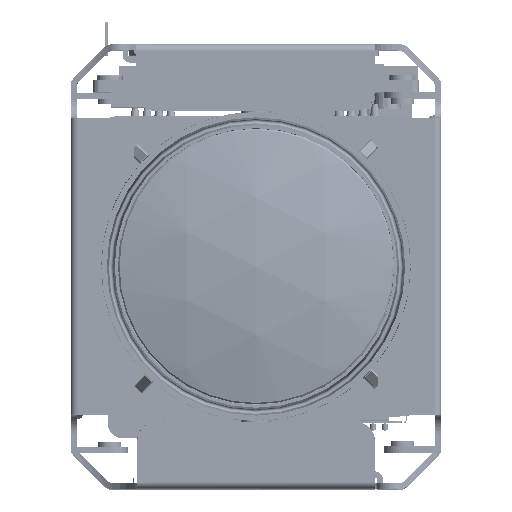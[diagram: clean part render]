
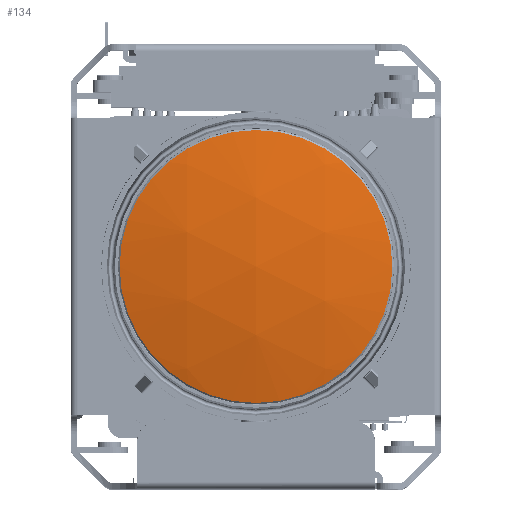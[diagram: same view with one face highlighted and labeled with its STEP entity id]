
A CAD part, top view. The second image highlights one B-rep face of the part: STEP entity #134.
In plain terms, the highlighted spherical face has radius 77.681 mm.
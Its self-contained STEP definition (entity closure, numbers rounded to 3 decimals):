
#47=CARTESIAN_POINT('',(-83.286,0.,0.));
#48=DIRECTION('',(-1.,0.,0.));
#49=DIRECTION('',(0.,-1.,0.));
#50=AXIS2_PLACEMENT_3D('',#47,#48,#49);
#52=CARTESIAN_POINT('',(-83.286,0.,0.));
#53=DIRECTION('',(-1.,0.,0.));
#54=DIRECTION('',(0.,-0.001,-1.));
#55=AXIS2_PLACEMENT_3D('',#52,#53,#54);
#57=CARTESIAN_POINT('',(-83.286,0.,0.));
#58=DIRECTION('',(-1.,0.,0.));
#59=DIRECTION('',(0.,1.,0.));
#60=AXIS2_PLACEMENT_3D('',#57,#58,#59);
#62=CARTESIAN_POINT('',(-83.286,0.,0.));
#63=DIRECTION('',(-1.,0.,0.));
#64=DIRECTION('',(0.,-0.001,1.));
#65=AXIS2_PLACEMENT_3D('',#62,#63,#64);
#103=CARTESIAN_POINT('',(-83.286,-18.4,0.));
#105=VERTEX_POINT('',#103);
#107=CARTESIAN_POINT('',(-83.286,18.4,0.));
#109=VERTEX_POINT('',#107);
#111=CARTESIAN_POINT('',(-83.286,-0.019,
18.4));
#112=VERTEX_POINT('',#111);
#113=CARTESIAN_POINT('',(-83.286,-0.019,
-18.4));
#114=VERTEX_POINT('',#113);
#119=CARTESIAN_POINT('',(-7.816,0.,0.));
#120=DIRECTION('',(0.,0.,1.));
#121=DIRECTION('',(-1.,0.,0.));
#122=AXIS2_PLACEMENT_3D('',#119,#120,#121);
#123=SPHERICAL_SURFACE('',#122,77.681);
#125=ORIENTED_EDGE('',*,*,#124,.F.);
#127=ORIENTED_EDGE('',*,*,#126,.F.);
#129=ORIENTED_EDGE('',*,*,#128,.F.);
#131=ORIENTED_EDGE('',*,*,#130,.F.);
#132=EDGE_LOOP('',(#125,#127,#129,#131));
#133=FACE_OUTER_BOUND('',#132,.F.);
#51=CIRCLE('',#50,18.4);
#56=CIRCLE('',#55,18.4);
#61=CIRCLE('',#60,18.4);
#66=CIRCLE('',#65,18.4);
#124=EDGE_CURVE('',#105,#112,#51,.T.);
#126=EDGE_CURVE('',#114,#105,#56,.T.);
#128=EDGE_CURVE('',#109,#114,#61,.T.);
#130=EDGE_CURVE('',#112,#109,#66,.T.);
#134=ADVANCED_FACE('',(#133),#123,.T.);
